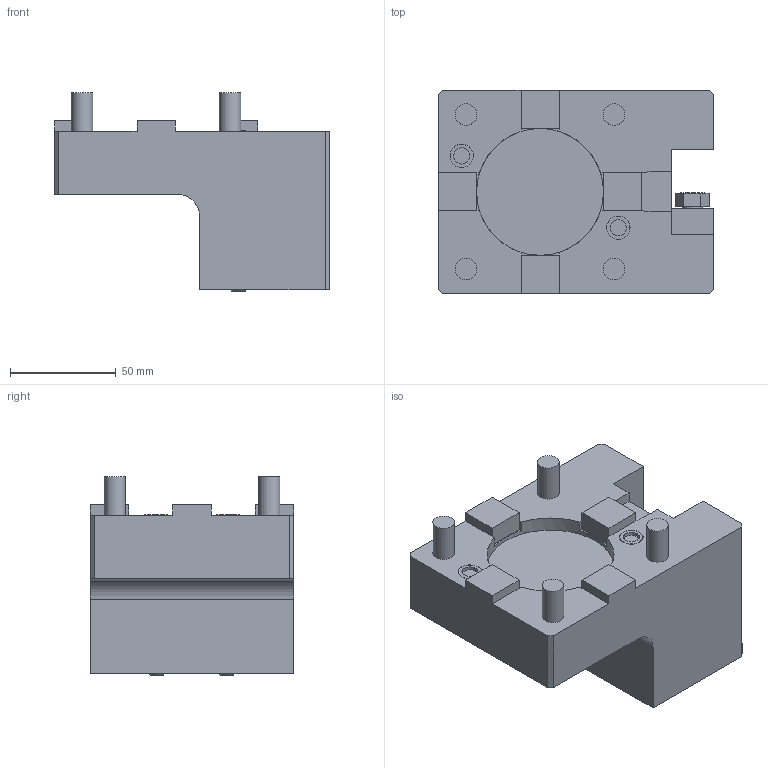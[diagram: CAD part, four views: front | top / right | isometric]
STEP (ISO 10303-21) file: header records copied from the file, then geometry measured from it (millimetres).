
FILE_DESCRIPTION(/* description */ (''),/* implementation_level */ '2;1');
FILE_NAME(/* name */ '197956-UNI',/* time_stamp */ '2022-01-03T09:38:27+01:00',/* author */ (''),/* organization */ (''),/* preprocessor_version */ 'ST-DEVELOPER v16.5',/* originating_system */ 'HiCAD 2017 2201.0 Build 268',/* authorisation */ '');
FILE_SCHEMA (('AUTOMOTIVE_DESIGN { 1 0 10303 214 1 1 1 1 }'));
Length unit declared in the file: millimetre
Products named in the file (2): Root; Teil
Assembly tree (1 placements, depth 2):
  Root
    Teil
Bounding box: 130 x 96 x 93.66 mm (x, y, z)
Volume: 583275.2 mm3; surface area: 67262.4 mm2
Topology: 1 solids, 1 shells, 184 faces, 431 edges, 275 vertices
Faces by surface type: plane 146, cylinder 26, cone 6, torus 4, sphere 2
Full cylindrical faces by diameter (mm): 6 x2, 7.65 x2, 9.6 x2, 10.2 x4, 11.01 x2, 11.1 x2, 18 x4, 20 x4, 60 x1
Entity records: 8740 total; most frequent: DIRECTION 861, CARTESIAN_POINT 829, PRESENTATION_STYLE_ASSIGNMENT 761, COLOUR_RGB 761, DRAUGHTING_PRE_DEFINED_CURVE_FONT 760, CURVE_STYLE 760, OVER_RIDING_STYLED_ITEM 760, ORIENTED_EDGE 760
